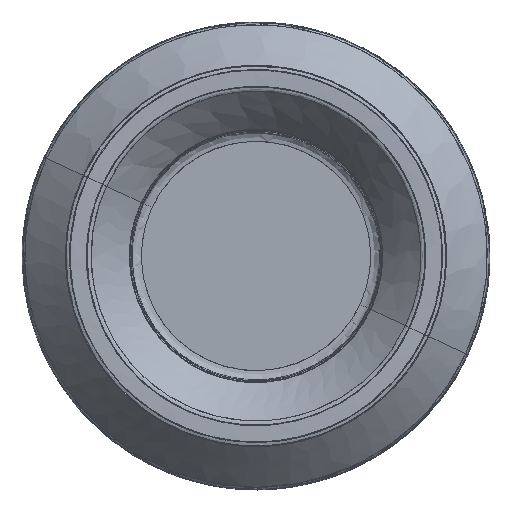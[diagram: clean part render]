
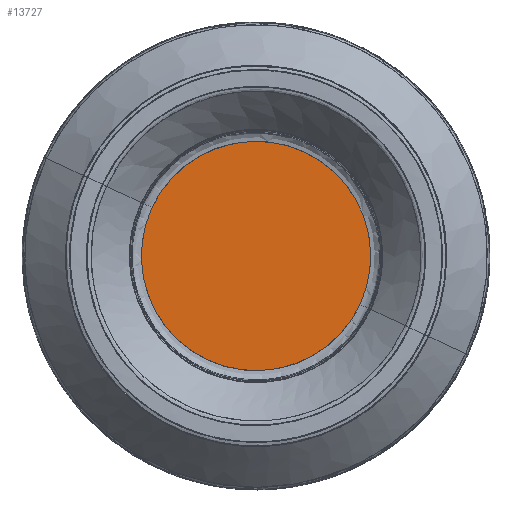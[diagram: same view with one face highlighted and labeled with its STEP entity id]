
A CAD part, front view. The second image highlights one B-rep face of the part: STEP entity #13727.
In plain terms, the highlighted planar face has unit normal (0, -1, 0).
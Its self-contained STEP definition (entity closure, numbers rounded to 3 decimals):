
#13727 = ADVANCED_FACE('',(#13728),#13755,.T.);
#13728 = FACE_BOUND('',#13729,.T.);
#13729 = EDGE_LOOP('',(#13730,#13779));
#13730 = ORIENTED_EDGE('',*,*,#13731,.T.);
#13731 = EDGE_CURVE('',#13732,#13734,#13736,.T.);
#13732 = VERTEX_POINT('',#13733);
#13733 = CARTESIAN_POINT('',(-17.311,12.3,8.07));
#13734 = VERTEX_POINT('',#13735);
#13735 = CARTESIAN_POINT('',(17.311,12.3,-8.07));
#13736 = SURFACE_CURVE('',#13737,(#13754),.PCURVE_S1.);
#13737 = B_SPLINE_CURVE_WITH_KNOTS('',3,(#13738,#13739,#13740,#13741,
    #13742,#13743,#13744,#13745,#13746,#13747,#13748,#13749,#13750,
    #13751,#13752,#13753),.UNSPECIFIED.,.F.,.F.,(4,3,3,3,3,4),(0.,
    0.249,0.456,0.705,0.954,1.),
  .UNSPECIFIED.);
#13738 = CARTESIAN_POINT('',(-17.311,12.3,8.07));
#13739 = CARTESIAN_POINT('',(-19.441,12.3,3.501));
#13740 = CARTESIAN_POINT('',(-19.679,12.3,-1.725));
#13741 = CARTESIAN_POINT('',(-17.971,12.3,-6.469));
#13742 = CARTESIAN_POINT('',(-16.554,12.3,-10.406));
#13743 = CARTESIAN_POINT('',(-13.883,12.3,-13.769));
#13744 = CARTESIAN_POINT('',(-10.369,12.3,-16.041));
#13745 = CARTESIAN_POINT('',(-6.135,12.3,-18.777));
#13746 = CARTESIAN_POINT('',(-0.991,12.3,-19.729));
#13747 = CARTESIAN_POINT('',(3.942,12.3,-18.689));
#13748 = CARTESIAN_POINT('',(8.875,12.3,-17.648));
#13749 = CARTESIAN_POINT('',(13.196,12.3,-14.7));
#13750 = CARTESIAN_POINT('',(15.964,12.3,-10.486));
#13751 = CARTESIAN_POINT('',(16.471,12.3,-9.714));
#13752 = CARTESIAN_POINT('',(16.921,12.3,-8.907));
#13753 = CARTESIAN_POINT('',(17.311,12.3,-8.07));
#13754 = PCURVE('',#13755,#13760);
#13755 = PLANE('',#13756);
#13756 = AXIS2_PLACEMENT_3D('',#13757,#13758,#13759);
#13757 = CARTESIAN_POINT('',(-19.679,12.3,-19.729));
#13758 = DIRECTION('',(0.,-1.,0.));
#13759 = DIRECTION('',(1.,0.,0.));
#13760 = DEFINITIONAL_REPRESENTATION('',(#13761),#13778);
#13761 = B_SPLINE_CURVE_WITH_KNOTS('',3,(#13762,#13763,#13764,#13765,
    #13766,#13767,#13768,#13769,#13770,#13771,#13772,#13773,#13774,
    #13775,#13776,#13777),.UNSPECIFIED.,.F.,.F.,(4,3,3,3,3,4),(0.,
    0.249,0.456,0.705,0.954,1.),
  .UNSPECIFIED.);
#13762 = CARTESIAN_POINT('',(2.367,27.799));
#13763 = CARTESIAN_POINT('',(0.237,23.23));
#13764 = CARTESIAN_POINT('',(0.,18.004));
#13765 = CARTESIAN_POINT('',(1.707,13.26));
#13766 = CARTESIAN_POINT('',(3.125,9.323));
#13767 = CARTESIAN_POINT('',(5.796,5.96));
#13768 = CARTESIAN_POINT('',(9.31,3.689));
#13769 = CARTESIAN_POINT('',(13.544,0.952));
#13770 = CARTESIAN_POINT('',(18.688,0.));
#13771 = CARTESIAN_POINT('',(23.621,1.041));
#13772 = CARTESIAN_POINT('',(28.554,2.081));
#13773 = CARTESIAN_POINT('',(32.875,5.03));
#13774 = CARTESIAN_POINT('',(35.643,9.243));
#13775 = CARTESIAN_POINT('',(36.15,10.015));
#13776 = CARTESIAN_POINT('',(36.6,10.822));
#13777 = CARTESIAN_POINT('',(36.99,11.659));
#13778 = ( GEOMETRIC_REPRESENTATION_CONTEXT(2) 
PARAMETRIC_REPRESENTATION_CONTEXT() REPRESENTATION_CONTEXT('2D SPACE',''
  ) );
#13779 = ORIENTED_EDGE('',*,*,#13780,.T.);
#13780 = EDGE_CURVE('',#13734,#13732,#13781,.T.);
#13781 = SURFACE_CURVE('',#13782,(#13799),.PCURVE_S1.);
#13782 = B_SPLINE_CURVE_WITH_KNOTS('',3,(#13783,#13784,#13785,#13786,
    #13787,#13788,#13789,#13790,#13791,#13792,#13793,#13794,#13795,
    #13796,#13797,#13798),.UNSPECIFIED.,.F.,.F.,(4,3,3,3,3,4),(0.,
    0.249,0.456,0.705,0.954,1.),
  .UNSPECIFIED.);
#13783 = CARTESIAN_POINT('',(17.311,12.3,-8.07));
#13784 = CARTESIAN_POINT('',(19.441,12.3,-3.501));
#13785 = CARTESIAN_POINT('',(19.679,12.3,1.725));
#13786 = CARTESIAN_POINT('',(17.971,12.3,6.469));
#13787 = CARTESIAN_POINT('',(16.554,12.3,10.406));
#13788 = CARTESIAN_POINT('',(13.883,12.3,13.769));
#13789 = CARTESIAN_POINT('',(10.369,12.3,16.041));
#13790 = CARTESIAN_POINT('',(6.135,12.3,18.777));
#13791 = CARTESIAN_POINT('',(0.991,12.3,19.729));
#13792 = CARTESIAN_POINT('',(-3.942,12.3,18.689));
#13793 = CARTESIAN_POINT('',(-8.875,12.3,17.648));
#13794 = CARTESIAN_POINT('',(-13.196,12.3,14.7));
#13795 = CARTESIAN_POINT('',(-15.964,12.3,10.486));
#13796 = CARTESIAN_POINT('',(-16.471,12.3,9.714));
#13797 = CARTESIAN_POINT('',(-16.921,12.3,8.907));
#13798 = CARTESIAN_POINT('',(-17.311,12.3,8.07));
#13799 = PCURVE('',#13755,#13800);
#13800 = DEFINITIONAL_REPRESENTATION('',(#13801),#13818);
#13801 = B_SPLINE_CURVE_WITH_KNOTS('',3,(#13802,#13803,#13804,#13805,
    #13806,#13807,#13808,#13809,#13810,#13811,#13812,#13813,#13814,
    #13815,#13816,#13817),.UNSPECIFIED.,.F.,.F.,(4,3,3,3,3,4),(0.,
    0.249,0.456,0.705,0.954,1.),
  .UNSPECIFIED.);
#13802 = CARTESIAN_POINT('',(36.99,11.659));
#13803 = CARTESIAN_POINT('',(39.12,16.229));
#13804 = CARTESIAN_POINT('',(39.357,21.455));
#13805 = CARTESIAN_POINT('',(37.65,26.198));
#13806 = CARTESIAN_POINT('',(36.233,30.135));
#13807 = CARTESIAN_POINT('',(33.562,33.498));
#13808 = CARTESIAN_POINT('',(30.047,35.77));
#13809 = CARTESIAN_POINT('',(25.813,38.507));
#13810 = CARTESIAN_POINT('',(20.669,39.459));
#13811 = CARTESIAN_POINT('',(15.736,38.418));
#13812 = CARTESIAN_POINT('',(10.804,37.377));
#13813 = CARTESIAN_POINT('',(6.482,34.429));
#13814 = CARTESIAN_POINT('',(3.715,30.215));
#13815 = CARTESIAN_POINT('',(3.208,29.444));
#13816 = CARTESIAN_POINT('',(2.757,28.636));
#13817 = CARTESIAN_POINT('',(2.367,27.799));
#13818 = ( GEOMETRIC_REPRESENTATION_CONTEXT(2) 
PARAMETRIC_REPRESENTATION_CONTEXT() REPRESENTATION_CONTEXT('2D SPACE',''
  ) );
